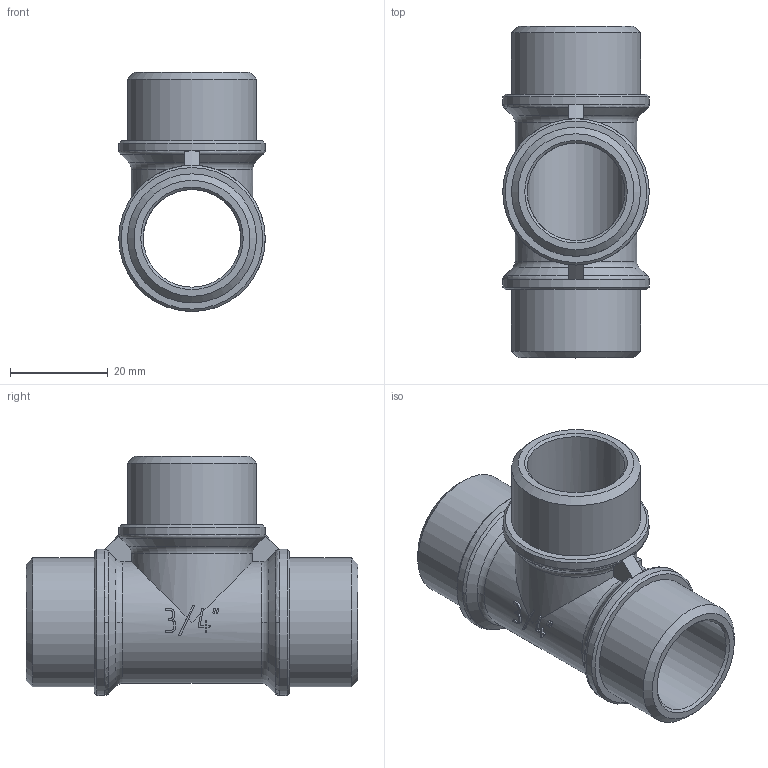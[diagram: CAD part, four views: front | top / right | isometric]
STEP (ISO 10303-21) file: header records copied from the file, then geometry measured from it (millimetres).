
FILE_DESCRIPTION(('STEP AP203'), '1');
FILE_NAME('ÂÐ.752242.002 - VTr.131.N.0005 - Ôèò. ðåçüá. òðîé', '2024-06-25T06:39:26', ('Boss'), (''), 'C3D Converter', 'C3D Toolkit', '');
FILE_SCHEMA(('CONFIG_CONTROL_DESIGN'));
Length unit declared in the file: millimetre
Products named in the file (1): ВР.752242.002
Bounding box: 30 x 68 x 49 mm (x, y, z)
Volume: 20268.6 mm3; surface area: 13940.8 mm2
Topology: 1 solids, 1 shells, 175 faces, 485 edges, 319 vertices
Faces by surface type: extrusion 69, plane 62, cylinder 19, cone 13, torus 12
Full cylindrical faces by diameter (mm): 20 x2, 26.441 x3, 30 x3
Entity records: 7458 total; most frequent: CARTESIAN_POINT 3431, ORIENTED_EDGE 934, DIRECTION 603, EDGE_CURVE 467, VERTEX_POINT 319, VECTOR 245, B_SPLINE_CURVE_WITH_KNOTS 239, EDGE_LOOP 204
